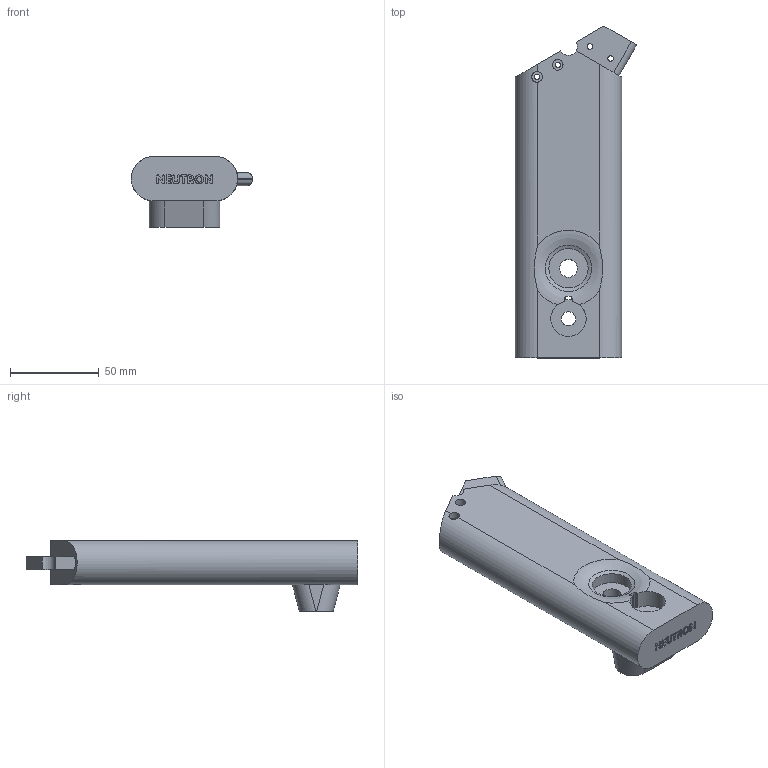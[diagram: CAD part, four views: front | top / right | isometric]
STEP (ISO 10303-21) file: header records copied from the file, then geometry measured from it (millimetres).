
FILE_DESCRIPTION( ( '' ), ' ' );
FILE_NAME( '/vol/tmp/translate-3948708449801314534/589d33c3876aac0fbabf0e40.step', '2017-02-10T03:30:13', ( '' ), ( '' ), ' ', ' ', ' ' );
FILE_SCHEMA( ( 'AUTOMOTIVE_DESIGN { 1 0 10303 214 1 1 1 1 }' ) );
Length unit declared in the file: metre
Products named in the file (1): Delta Cap
Bounding box: 68.49 x 187.32 x 40 mm (x, y, z)
Volume: 227531.2 mm3; surface area: 34789.6 mm2
Topology: 1 solids, 1 shells, 649 faces, 1912 edges, 1276 vertices
Faces by surface type: plane 619, cylinder 28, torus 1, cone 1
Full cylindrical faces by diameter (mm): 1.75 x2, 3 x4, 3.2 x2, 6 x2, 8 x1, 10 x1, 12.2 x1, 22.2 x1
Entity records: 26522 total; most frequent: CARTESIAN_POINT 4036, ORIENTED_EDGE 3776, DIRECTION 3238, EDGE_CURVE 1888, LINE 1806, VECTOR 1806, VERTEX_POINT 1268, AXIS2_PLACEMENT_3D 716
